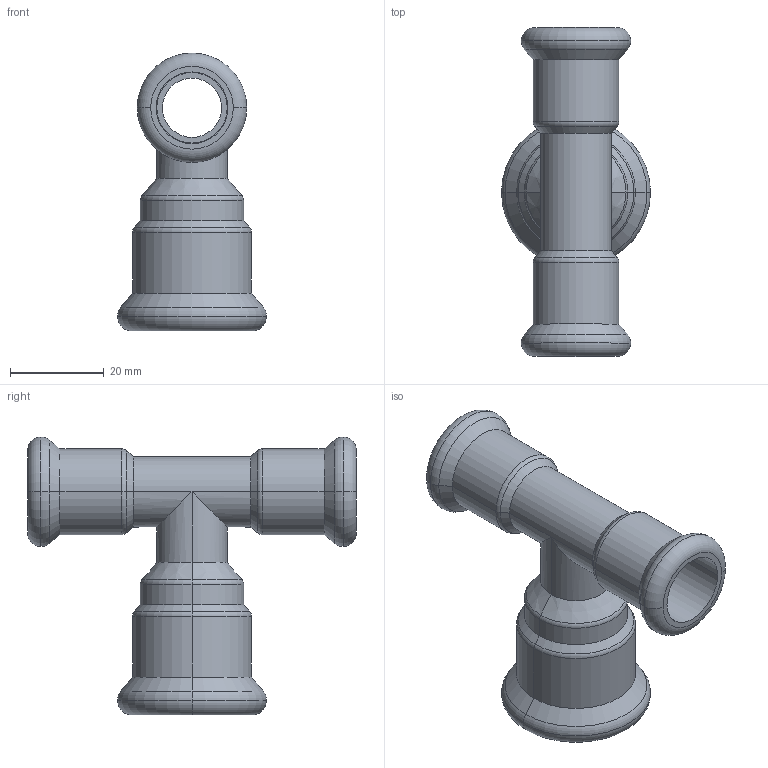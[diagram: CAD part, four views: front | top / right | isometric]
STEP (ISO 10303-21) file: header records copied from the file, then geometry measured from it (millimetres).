
FILE_DESCRIPTION(('CoCreate Modeling STEP Export'),'2;1');
FILE_NAME('C1415 15x22x15.stp','2014-11-11T17:02:42',(''),(''),'CoCreate Modeling STEP processor for AP214 (Solid Model)','CoCreate Modeling 17.00A 17-Jun-2010 (C) Parametric Technology GmbH','');
FILE_SCHEMA(('AUTOMOTIVE_DESIGN { 1 0 10303 214 1 1 1 1 }'));
Length unit declared in the file: millimetre
Products named in the file (2): C1415_15x22x15
Assembly tree (1 placements, depth 2):
  C1415_15x22x15
    C1415_15x22x15
Bounding box: 31.7 x 70 x 59.15 mm (x, y, z)
Volume: 12254.1 mm3; surface area: 13769.6 mm2
Topology: 1 solids, 1 shells, 77 faces, 157 edges, 89 vertices
Faces by surface type: cylinder 32, torus 20, cone 16, plane 9
Entity records: 2176 total; most frequent: CARTESIAN_POINT 766, ORIENTED_EDGE 314, DIRECTION 254, EDGE_CURVE 157, AXIS2_PLACEMENT_3D 104, VERTEX_POINT 89, EDGE_LOOP 86, FACE_OUTER_BOUND 77
